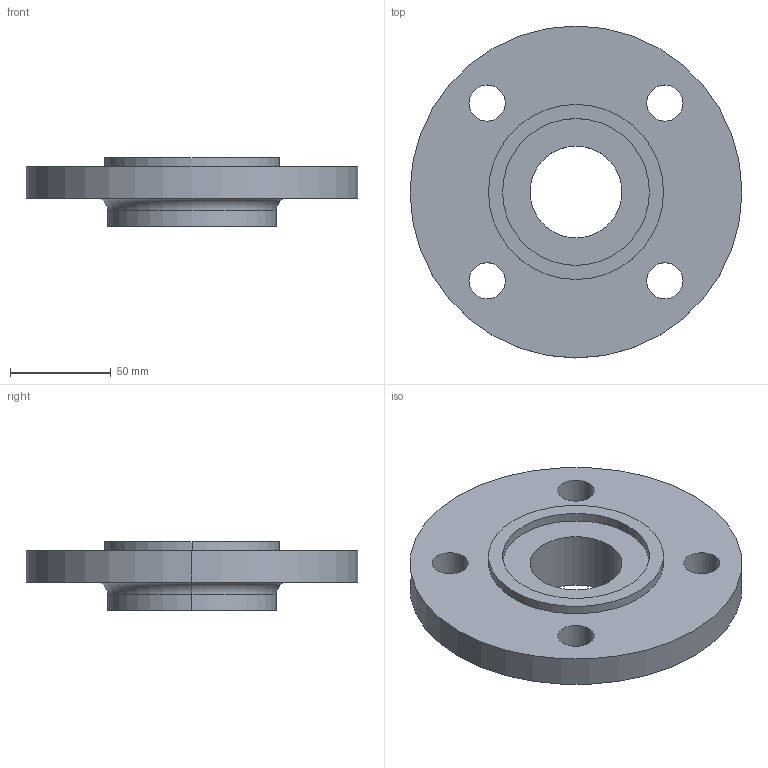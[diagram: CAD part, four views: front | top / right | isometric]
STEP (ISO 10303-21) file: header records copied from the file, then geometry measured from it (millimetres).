
FILE_DESCRIPTION (( 'STEP AP214' ), '1' );
FILE_NAME ('PN40 DN50 Type 13 - Type C Face.STEP', '2018-12-30T04:31:35', ( '' ), ( '' ), 'SwSTEP 2.0', 'SolidWorks 2019', '' );
FILE_SCHEMA (( 'AUTOMOTIVE_DESIGN' ));
Length unit declared in the file: millimetre
Products named in the file (1): PN40 DN50 Type 13 - Type C Face
Bounding box: 165 x 165 x 34 mm (x, y, z)
Volume: 354931.3 mm3; surface area: 58519 mm2
Topology: 1 solids, 1 shells, 25 faces, 58 edges, 38 vertices
Faces by surface type: cylinder 18, plane 5, torus 2
Entity records: 790 total; most frequent: DIRECTION 150, CARTESIAN_POINT 122, ORIENTED_EDGE 116, AXIS2_PLACEMENT_3D 66, EDGE_CURVE 58, CIRCLE 40, VERTEX_POINT 38, EDGE_LOOP 38
